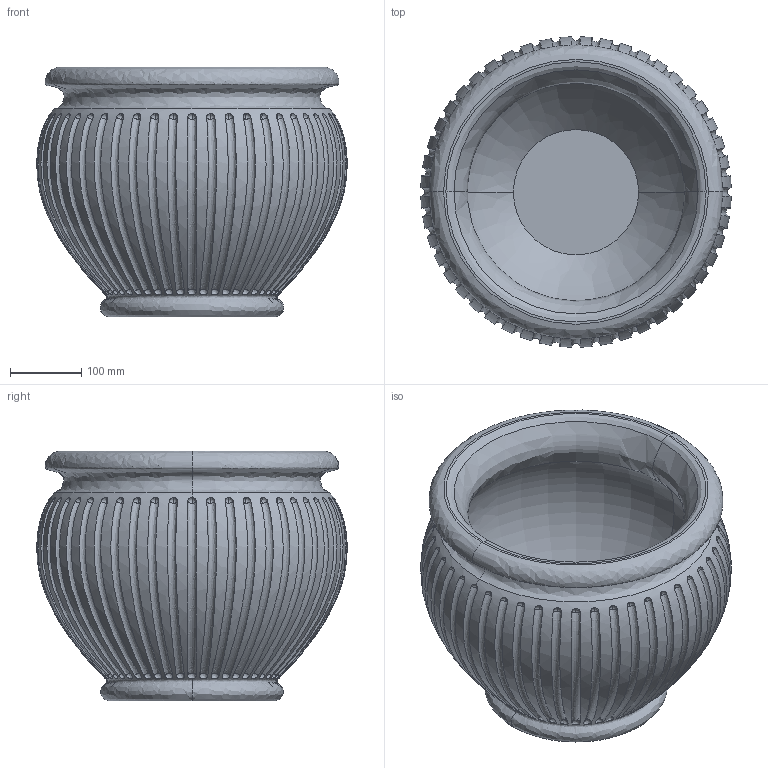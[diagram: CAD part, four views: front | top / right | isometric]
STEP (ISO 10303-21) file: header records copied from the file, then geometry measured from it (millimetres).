
FILE_DESCRIPTION(/* description */ (''),/* implementation_level */ '2;1');
FILE_NAME(/* name */ '40',/* time_stamp */ '2026-07-06T12:03:23+02:00',/* author */ (''),/* organization */ (''),/* preprocessor_version */ 'ST-DEVELOPER v19.2',/* originating_system */ 'Rhino 8.32',/* authorisation */ '');
FILE_SCHEMA (('CONFIG_CONTROL_DESIGN'));
Length unit declared in the file: millimetre
Products named in the file (1): Document
Bounding box: 435.57 x 435.57 x 350.42 mm (x, y, z)
Volume: 10935236.4 mm3; surface area: 1043980 mm2
Topology: 1 solids, 1 shells, 205 faces, 460 edges, 304 vertices
Faces by surface type: bspline 202, plane 3
Entity records: 30345 total; most frequent: CARTESIAN_POINT 26569, ORIENTED_EDGE 920, EDGE_CURVE 460, DIRECTION 423, VERTEX_POINT 304, EDGE_LOOP 252, B_SPLINE_CURVE_WITH_KNOTS 242, AXIS2_PLACEMENT_3D 213
